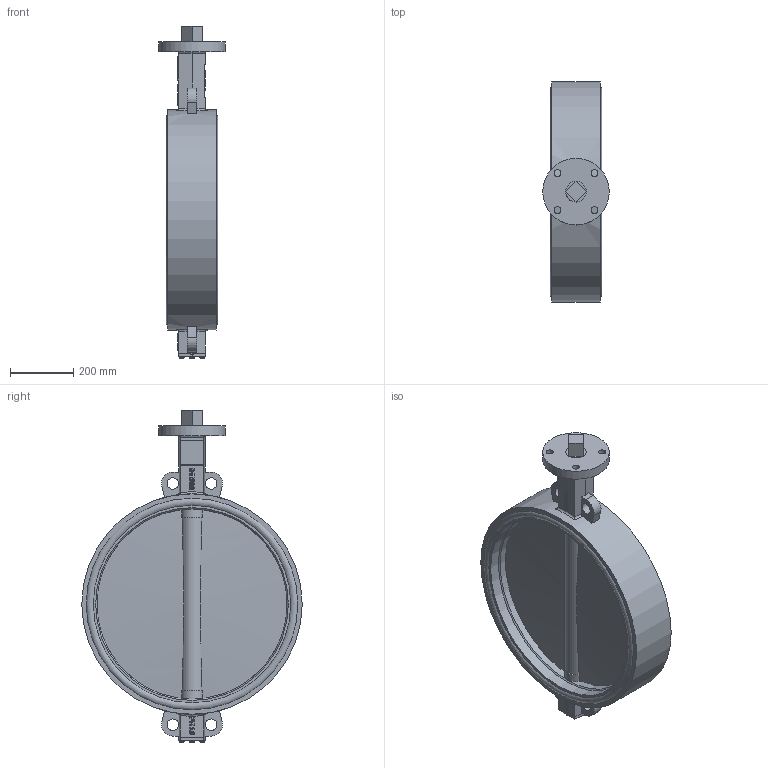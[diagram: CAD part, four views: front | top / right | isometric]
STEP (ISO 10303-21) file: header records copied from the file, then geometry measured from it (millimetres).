
FILE_DESCRIPTION(('STEP AP242'), '1');
FILE_NAME('Ïîâîðîòíûé çàòâîð ïîä ýëåêòðîïðèâîä', '', ('UNSPECIFIED'), ('UNSPECIFIED'), 'C3D Converter', 'C3D Toolkit', '');
FILE_SCHEMA(('AP242_MANAGED_MODEL_BASED_3D_ENGINEERING_MIM_LF { 1 0 10303 442 1 1 4 }'));
Length unit declared in the file: millimetre
Products named in the file (8): П
Assembly tree (11 placements, depth 2):
  (unnamed)
    (unnamed)
    П  x2
    (unnamed)
    (unnamed)
    (unnamed)
    (unnamed)
    (unnamed)  x4
Bounding box: 210 x 695 x 1047 mm (x, y, z)
Volume: 29484010.2 mm3; surface area: 2882343.2 mm2
Topology: 11 solids, 11 shells, 549 faces, 1374 edges, 893 vertices
Faces by surface type: plane 256, extrusion 175, cylinder 77, cone 19, torus 10, bspline 8, sphere 4
Full cylindrical faces by diameter (mm): 8 x4, 10 x12, 16 x8, 18.845 x1, 22 x4, 36 x4, 46 x6, 65.054 x5, 73.15 x4, 210 x1, 600 x1, 607.7 x2, 623.1 x2, 644.933 x4, 666.767 x4, 695 x1
Entity records: 23363 total; most frequent: CARTESIAN_POINT 10049, ORIENTED_EDGE 2308, DIRECTION 1666, EDGE_CURVE 1154, VERTEX_POINT 801, VECTOR 738, EDGE_LOOP 625, B_SPLINE_CURVE_WITH_KNOTS 585
